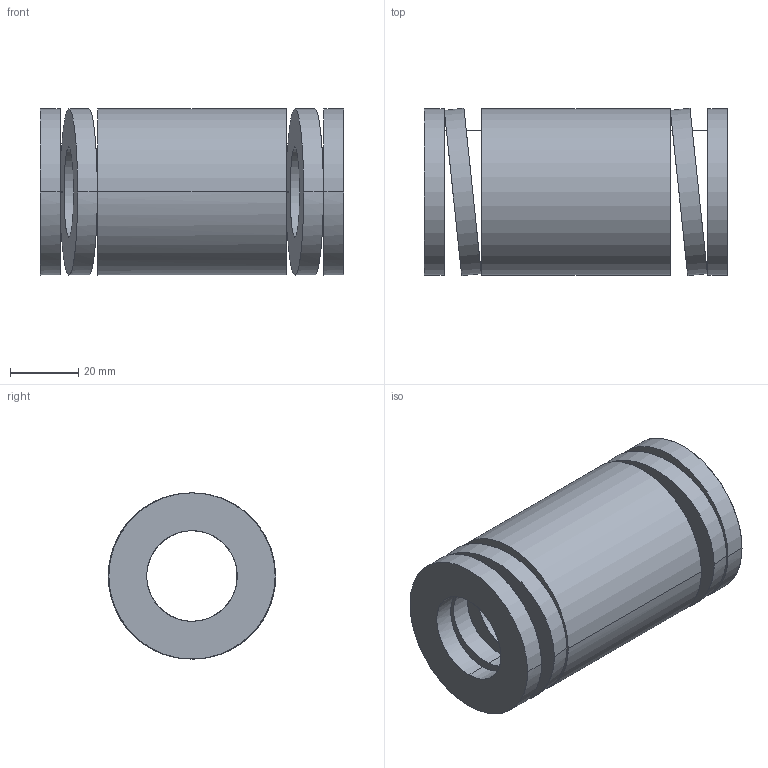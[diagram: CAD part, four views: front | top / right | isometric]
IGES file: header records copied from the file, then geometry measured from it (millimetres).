
Start section: START RECORD GO HERE.
Global section: file name: 392-B50-089.igs; native system: DASSAULT SYSTEMES CATIA V5 R20 - www.3ds.com; preprocessor: CATIA Version 5 Release 20 ; author: Utente; organization: NB04-ASUS; date: 20210813.133823; units: millimetre
Bounding box: 89 x 49.14 x 48.8 mm (x, y, z)
Surface area: 31737.4 mm2 (no closed solid volume)
Topology: 0 solids, 0 shells, 38 faces, 184 edges, 184 vertices
Faces by surface type: revolution 28, plane 10
